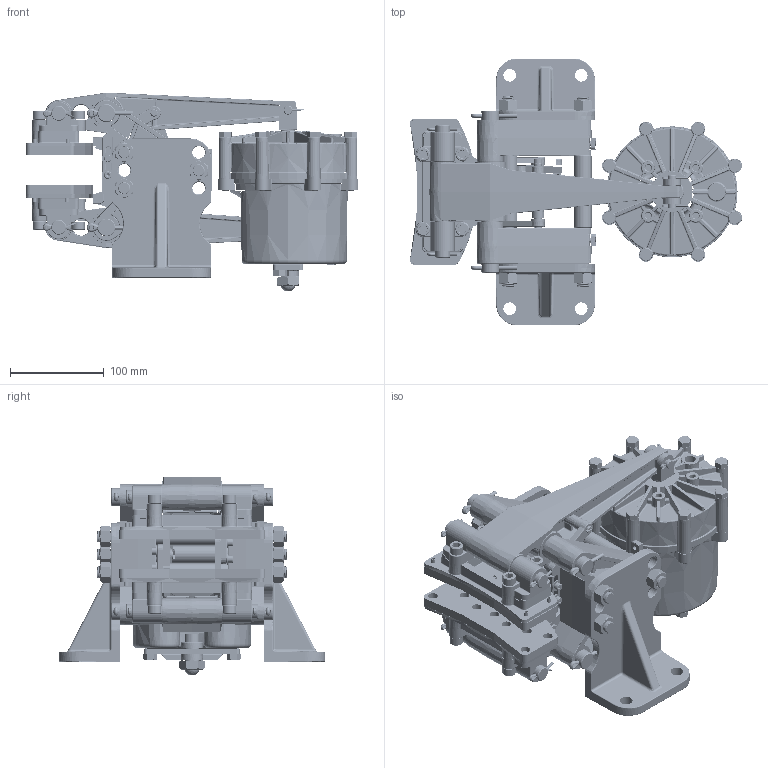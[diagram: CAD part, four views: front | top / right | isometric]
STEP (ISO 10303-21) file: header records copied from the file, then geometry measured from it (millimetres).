
FILE_DESCRIPTION (( 'STEP AP214' ), '1' );
FILE_NAME ('5020-SAW-RH.STEP', '2016-06-02T17:32:03', ( 'User' ), ( 'Microsoft' ), 'SwSTEP 2.0', 'SolidWorks 2015', '' );
FILE_SCHEMA (( 'AUTOMOTIVE_DESIGN' ));
Length unit declared in the file: inch
Products named in the file (1): 5020-SAW-RH
Bounding box: 353.99 x 284.48 x 212.09 mm (x, y, z)
Surface area: 638334.4 mm2 (no closed solid volume)
Topology: 0 solids, 156 shells, 3121 faces, 9877 edges, 6543 vertices
Faces by surface type: cylinder 849, plane 830, cone 609, torus 414, bspline 395, sphere 24
Entity records: 180063 total; most frequent: CARTESIAN_POINT 58591, DIRECTION 16641, ORIENTED_EDGE 15805, EDGE_CURVE 9818, AXIS2_PLACEMENT_3D 6663, VERTEX_POINT 6543, CIRCLE 3936, EDGE_LOOP 3447
